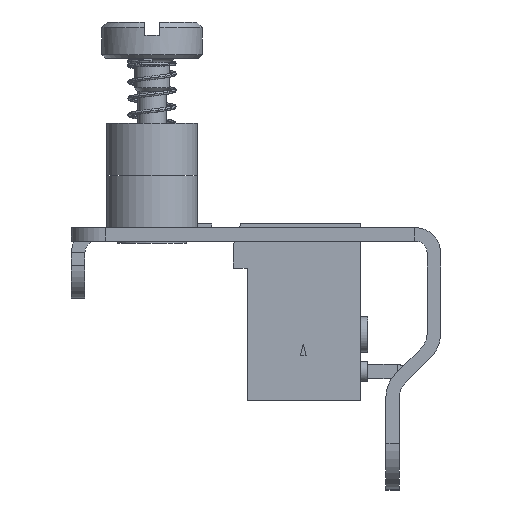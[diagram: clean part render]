
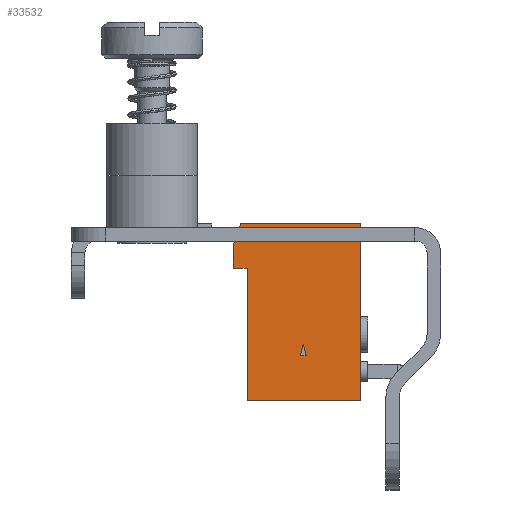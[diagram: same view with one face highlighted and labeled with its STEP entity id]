
A CAD part, left-side view. The second image highlights one B-rep face of the part: STEP entity #33532.
In plain terms, the highlighted planar face has unit normal (-1, 0, 0) as drawn and (0, 0, 1) by its records, which use the part's own axes.
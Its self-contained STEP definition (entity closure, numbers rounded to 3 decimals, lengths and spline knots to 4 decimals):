
#2038=FACE_BOUND('',#5742,.T.);
#3722=FACE_OUTER_BOUND('',#5741,.T.);
#5741=EDGE_LOOP('',(#27324,#27325,#27326,#27327,#27328,#27329,#27330));
#5742=EDGE_LOOP('',(#27331,#27332,#27333));
#8925=LINE('',#56662,#12588);
#8928=LINE('',#56668,#12591);
#8930=LINE('',#56671,#12593);
#8931=LINE('',#56676,#12594);
#8932=LINE('',#56678,#12595);
#8933=LINE('',#56680,#12596);
#8934=LINE('',#56682,#12597);
#8935=LINE('',#56684,#12598);
#8936=LINE('',#56686,#12599);
#8937=LINE('',#56687,#12600);
#12588=VECTOR('',#41455,0.0394);
#12591=VECTOR('',#41460,0.0394);
#12593=VECTOR('',#41464,0.0394);
#12594=VECTOR('',#41469,0.0394);
#12595=VECTOR('',#41470,0.0394);
#12596=VECTOR('',#41471,0.0394);
#12597=VECTOR('',#41472,0.0394);
#12598=VECTOR('',#41473,0.0394);
#12599=VECTOR('',#41474,0.0394);
#12600=VECTOR('',#41475,0.0394);
#15869=VERTEX_POINT('',#56656);
#15871=VERTEX_POINT('',#56660);
#15873=VERTEX_POINT('',#56666);
#15874=VERTEX_POINT('',#56674);
#15875=VERTEX_POINT('',#56675);
#15876=VERTEX_POINT('',#56677);
#15877=VERTEX_POINT('',#56679);
#15878=VERTEX_POINT('',#56681);
#15879=VERTEX_POINT('',#56683);
#15880=VERTEX_POINT('',#56685);
#19806=EDGE_CURVE('',#15871,#15869,#8925,.T.);
#19809=EDGE_CURVE('',#15873,#15871,#8928,.T.);
#19811=EDGE_CURVE('',#15869,#15873,#8930,.T.);
#19812=EDGE_CURVE('',#15874,#15875,#8931,.T.);
#19813=EDGE_CURVE('',#15876,#15875,#8932,.T.);
#19814=EDGE_CURVE('',#15877,#15876,#8933,.T.);
#19815=EDGE_CURVE('',#15878,#15877,#8934,.T.);
#19816=EDGE_CURVE('',#15878,#15879,#8935,.T.);
#19817=EDGE_CURVE('',#15880,#15879,#8936,.T.);
#19818=EDGE_CURVE('',#15880,#15874,#8937,.T.);
#27324=ORIENTED_EDGE('',*,*,#19812,.T.);
#27325=ORIENTED_EDGE('',*,*,#19813,.F.);
#27326=ORIENTED_EDGE('',*,*,#19814,.F.);
#27327=ORIENTED_EDGE('',*,*,#19815,.F.);
#27328=ORIENTED_EDGE('',*,*,#19816,.T.);
#27329=ORIENTED_EDGE('',*,*,#19817,.F.);
#27330=ORIENTED_EDGE('',*,*,#19818,.T.);
#27331=ORIENTED_EDGE('',*,*,#19809,.F.);
#27332=ORIENTED_EDGE('',*,*,#19811,.F.);
#27333=ORIENTED_EDGE('',*,*,#19806,.F.);
#31630=PLANE('',#35705);
#33532=ADVANCED_FACE('',(#3722,#2038),#31630,.T.);
#35705=AXIS2_PLACEMENT_3D('',#56673,#41467,#41468);
#41455=DIRECTION('',(0.,-1.,0.));
#41460=DIRECTION('',(-0.966,0.259,0.));
#41464=DIRECTION('',(0.966,0.259,0.));
#41467=DIRECTION('center_axis',(0.,0.,1.));
#41468=DIRECTION('ref_axis',(1.,0.,0.));
#41469=DIRECTION('',(0.,1.,0.));
#41470=DIRECTION('',(0.94,-0.342,0.));
#41471=DIRECTION('',(1.,0.,0.));
#41472=DIRECTION('',(0.,1.,0.));
#41473=DIRECTION('',(-1.,0.,0.));
#41474=DIRECTION('',(0.,1.,0.));
#41475=DIRECTION('',(1.,0.,0.));
#56656=CARTESIAN_POINT('',(0.5138,0.4988,1.5));
#56660=CARTESIAN_POINT('',(0.5138,0.5146,1.5));
#56662=CARTESIAN_POINT('',(0.5138,-1.1328,1.5));
#56666=CARTESIAN_POINT('',(0.5433,0.5067,1.5));
#56668=CARTESIAN_POINT('',(-1.0483,0.9332,1.5));
#56671=CARTESIAN_POINT('',(-1.0483,0.0802,1.5));
#56673=CARTESIAN_POINT('Origin',(0.7991,0.3766,1.5));
#56674=CARTESIAN_POINT('',(0.8661,0.3543,1.5));
#56675=CARTESIAN_POINT('',(0.8661,0.6732,1.5));
#56676=CARTESIAN_POINT('',(0.8661,-1.1328,1.5));
#56677=CARTESIAN_POINT('',(0.8121,0.6929,1.5));
#56678=CARTESIAN_POINT('',(-1.0483,1.37,1.5));
#56679=CARTESIAN_POINT('',(0.748,0.6929,1.5));
#56680=CARTESIAN_POINT('',(-1.0483,0.6929,1.5));
#56681=CARTESIAN_POINT('',(0.748,0.6563,1.5));
#56682=CARTESIAN_POINT('',(0.748,-1.1328,1.5));
#56683=CARTESIAN_POINT('',(0.3937,0.6563,1.5));
#56684=CARTESIAN_POINT('',(-1.0483,0.6563,1.5));
#56685=CARTESIAN_POINT('',(0.3937,0.3543,1.5));
#56686=CARTESIAN_POINT('',(0.3937,-1.1328,1.5));
#56687=CARTESIAN_POINT('',(-1.0483,0.3543,1.5));
